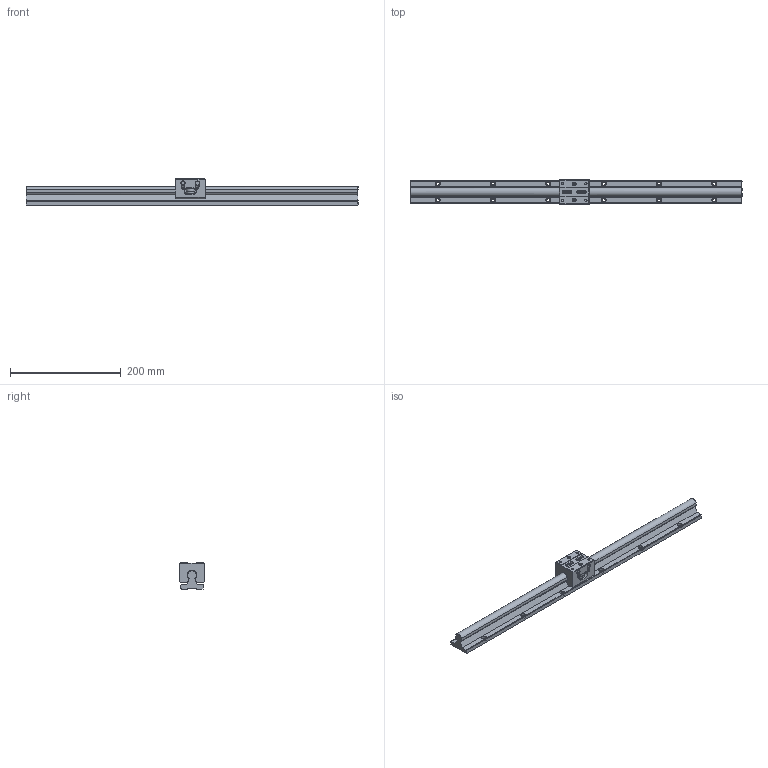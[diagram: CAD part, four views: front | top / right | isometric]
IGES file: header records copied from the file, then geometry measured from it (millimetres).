
Global section: file name: No Iges File Name specified; native system: AutoDesk Inventor R10; preprocessor: AutoDesk Inventor Iges Exporter R10; author: No Author specified; organization: No Organization specified; date: 20101222.155116; units: millimetre
Bounding box: 600 x 45 x 47 mm (x, y, z)
Surface area: 107645.9 mm2 (no closed solid volume)
Topology: 0 solids, 0 shells, 466 faces, 3818 edges, 3794 vertices
Faces by surface type: bspline 466
